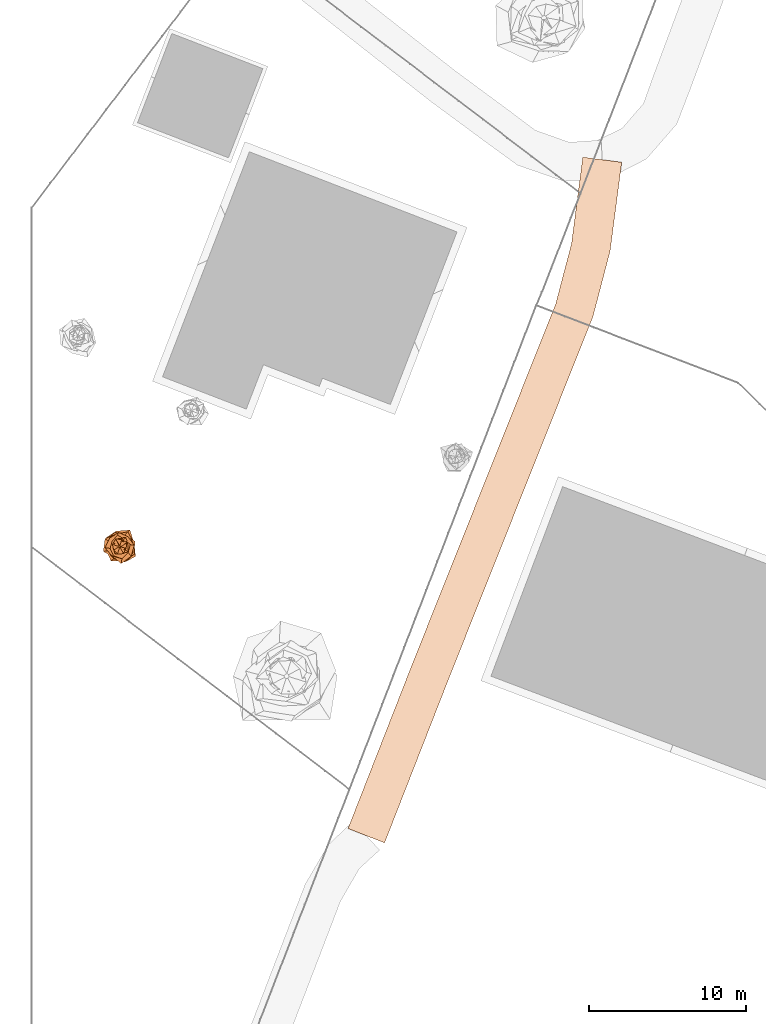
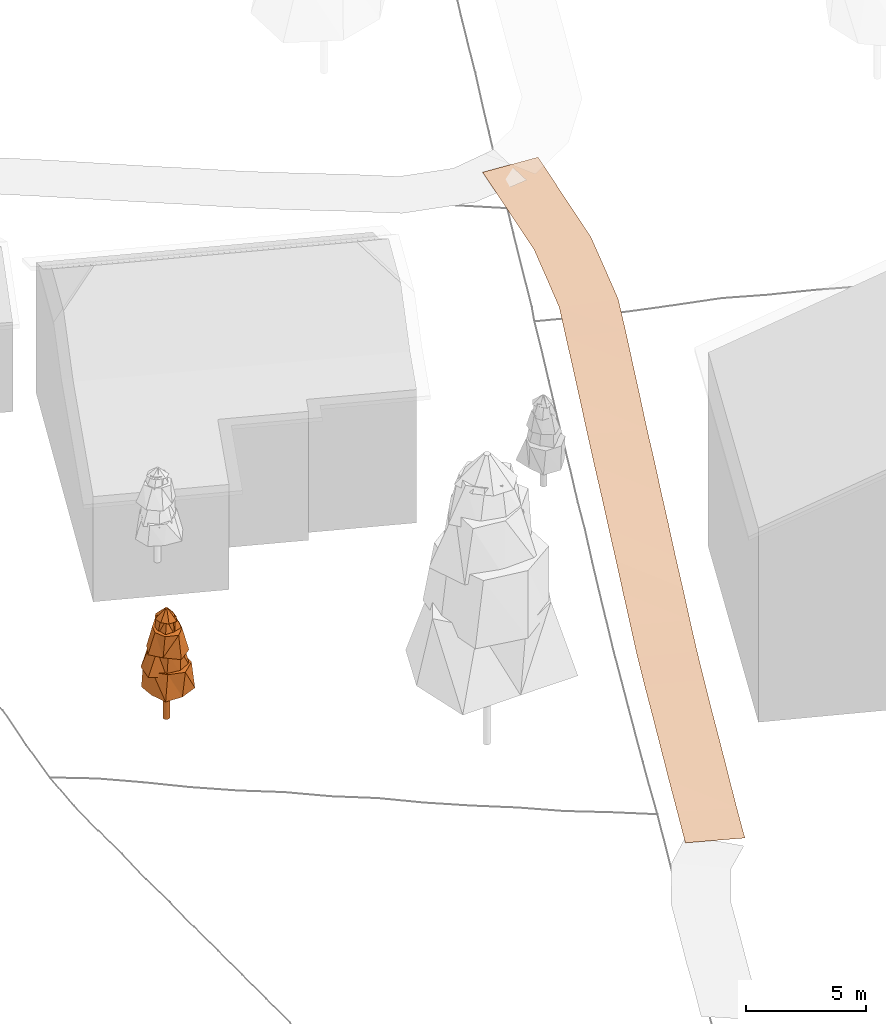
# Not in any storey, part 30 of 88: 2 geographic elements.
"""IFC4 model written with IfcOpenShell, lengths in metres."""

from ifc_helpers import new_model, si_unit, frame, origin_with_axes, place, context, subcontext, project, spatial, circle, extrude, faceted_brep, triangles, element, save


model = new_model("IFC4")

# Units and contexts
model_context = context("Model", 3, precision=1e-05, world=origin_with_axes())
body_context = subcontext(model_context, "Body", "Model", "MODEL_VIEW")
ifc_project = project(units=[si_unit("LENGTHUNIT", "METRE"), si_unit("AREAUNIT", "SQUARE_METRE"), si_unit("VOLUMEUNIT", "CUBIC_METRE"), si_unit("PLANEANGLEUNIT", "RADIAN")], contexts=[model_context])

# Sites
site_1_placement = place(None, origin_with_axes())
site_1 = spatial("IfcSite", under=ifc_project, at=site_1_placement, Name="CH907857693633", CompositionType="ELEMENT")
site_2_placement = place(None, origin_with_axes())
site_2 = spatial("IfcSite", under=site_1, at=site_2_placement, Name="Vegetation", CompositionType="ELEMENT")

# Geographic element
geographic_element_1_placement = place(None, frame((5.59900003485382, 77.7610034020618, 3.28515625), z_axis=(0.0, 0.0, 1.0), x_axis=(1.0, 0.0, 0.0)))
element("IfcGeographicElement", 1, at=geographic_element_1_placement, inside=site_2, Name="Tree_einzelbaum", ObjectType="VEGETATION", PredefinedType="USERDEFINED", context=body_context, shape_type="Brep", body=[
    extrude(circle(Radius=0.15), origin_with_axes(), (0.0, 0.0, 1.0), 1.52858288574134),
    faceted_brep([(1.01096234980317, -0.623304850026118, 1.52858288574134), (0.223940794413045, -0.944078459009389, 1.52858288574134), (-0.557507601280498, -0.904243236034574, 1.52858288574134), (-0.8163949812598, -0.193653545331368, 1.52858288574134), (-0.882471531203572, 0.544084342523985, 1.52858288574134), (-0.233580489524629, 0.984717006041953, 1.52858288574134), (0.649701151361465, 1.05377553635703, 1.52858288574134), (0.919720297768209, 0.218162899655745, 1.52858288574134), (0.966346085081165, 0.334133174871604, 2.76713305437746), (0.370787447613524, 0.76271992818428, 2.76713305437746), (-0.312249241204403, 0.903055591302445, 2.76713305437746), (-0.872754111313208, 0.424279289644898, 2.76713305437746), (-0.836131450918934, -0.289108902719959, 2.76713305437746), (-0.376098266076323, -0.773644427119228, 2.76713305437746), (0.341516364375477, -0.987698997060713, 2.76713305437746), (0.941506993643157, -0.457702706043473, 2.76713305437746), (0.919720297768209, 0.218162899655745, 1.52858288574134), (0.649701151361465, 1.05377553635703, 1.52858288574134), (0.370787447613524, 0.76271992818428, 2.76713305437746), (0.966346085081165, 0.334133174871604, 2.76713305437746), (0.649701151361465, 1.05377553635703, 1.52858288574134), (-0.233580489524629, 0.984717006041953, 1.52858288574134), (-0.312249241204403, 0.903055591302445, 2.76713305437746), (0.370787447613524, 0.76271992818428, 2.76713305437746), (-0.233580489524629, 0.984717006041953, 1.52858288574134), (-0.882471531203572, 0.544084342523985, 1.52858288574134), (-0.872754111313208, 0.424279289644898, 2.76713305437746), (-0.312249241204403, 0.903055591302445, 2.76713305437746), (-0.882471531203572, 0.544084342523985, 1.52858288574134), (-0.8163949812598, -0.193653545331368, 1.52858288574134), (-0.836131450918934, -0.289108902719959, 2.76713305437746), (-0.872754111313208, 0.424279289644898, 2.76713305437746), (-0.8163949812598, -0.193653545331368, 1.52858288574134), (-0.557507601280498, -0.904243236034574, 1.52858288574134), (-0.376098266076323, -0.773644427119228, 2.76713305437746), (-0.836131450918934, -0.289108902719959, 2.76713305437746), (-0.557507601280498, -0.904243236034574, 1.52858288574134), (0.223940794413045, -0.944078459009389, 1.52858288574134), (0.341516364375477, -0.987698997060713, 2.76713305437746), (-0.376098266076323, -0.773644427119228, 2.76713305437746), (0.223940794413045, -0.944078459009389, 1.52858288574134), (1.01096234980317, -0.623304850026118, 1.52858288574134), (0.941506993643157, -0.457702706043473, 2.76713305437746), (0.341516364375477, -0.987698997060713, 2.76713305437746), (1.01096234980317, -0.623304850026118, 1.52858288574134), (0.919720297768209, 0.218162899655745, 1.52858288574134), (0.966346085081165, 0.334133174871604, 2.76713305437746), (0.941506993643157, -0.457702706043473, 2.76713305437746)], [[[0, 1, 2, 3, 4, 5, 6, 7]], [[8, 9, 10, 11, 12, 13, 14, 15]], [[16, 17, 18, 19]], [[20, 21, 22, 23]], [[24, 25, 26, 27]], [[28, 29, 30, 31]], [[32, 33, 34, 35]], [[36, 37, 38, 39]], [[40, 41, 42, 43]], [[44, 45, 46, 47]]]),
    faceted_brep([(0.862939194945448, -0.468227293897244, 2.58135052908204), (0.229091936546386, -0.772612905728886, 2.58135052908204), (-0.3740222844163, -0.689320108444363, 2.58135052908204), (-1.04491836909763, -0.309834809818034, 2.58135052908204), (-0.933086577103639, 0.506288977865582, 2.58135052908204), (-0.233745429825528, 0.788306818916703, 2.58135052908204), (0.510584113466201, 0.941002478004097, 2.58135052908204), (0.894951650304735, 0.265367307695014, 2.58135052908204), (0.534098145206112, 0.218456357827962, 3.72689767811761), (0.279680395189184, 0.666815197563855, 3.72689767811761), (-0.305878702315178, 0.74783471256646, 3.72689767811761), (-0.629461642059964, 0.264013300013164, 3.72689767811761), (-0.582479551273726, -0.238245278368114, 3.72689767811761), (-0.266624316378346, -0.635686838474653, 3.72689767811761), (0.27721129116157, -0.677746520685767, 3.72689767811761), (0.655277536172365, -0.274841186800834, 3.72689767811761), (0.894951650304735, 0.265367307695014, 2.58135052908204), (0.510584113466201, 0.941002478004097, 2.58135052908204), (0.279680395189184, 0.666815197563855, 3.72689767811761), (0.534098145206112, 0.218456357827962, 3.72689767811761), (0.510584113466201, 0.941002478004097, 2.58135052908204), (-0.233745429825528, 0.788306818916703, 2.58135052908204), (-0.305878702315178, 0.74783471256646, 3.72689767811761), (0.279680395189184, 0.666815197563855, 3.72689767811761), (-0.233745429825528, 0.788306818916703, 2.58135052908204), (-0.933086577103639, 0.506288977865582, 2.58135052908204), (-0.629461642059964, 0.264013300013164, 3.72689767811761), (-0.305878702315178, 0.74783471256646, 3.72689767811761), (-0.933086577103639, 0.506288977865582, 2.58135052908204), (-1.04491836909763, -0.309834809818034, 2.58135052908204), (-0.582479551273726, -0.238245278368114, 3.72689767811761), (-0.629461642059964, 0.264013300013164, 3.72689767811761), (-1.04491836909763, -0.309834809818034, 2.58135052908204), (-0.3740222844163, -0.689320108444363, 2.58135052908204), (-0.266624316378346, -0.635686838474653, 3.72689767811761), (-0.582479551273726, -0.238245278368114, 3.72689767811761), (-0.3740222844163, -0.689320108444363, 2.58135052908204), (0.229091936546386, -0.772612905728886, 2.58135052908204), (0.27721129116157, -0.677746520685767, 3.72689767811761), (-0.266624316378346, -0.635686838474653, 3.72689767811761), (0.229091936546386, -0.772612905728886, 2.58135052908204), (0.862939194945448, -0.468227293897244, 2.58135052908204), (0.655277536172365, -0.274841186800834, 3.72689767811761), (0.27721129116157, -0.677746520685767, 3.72689767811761), (0.862939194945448, -0.468227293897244, 2.58135052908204), (0.894951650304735, 0.265367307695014, 2.58135052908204), (0.534098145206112, 0.218456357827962, 3.72689767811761), (0.655277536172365, -0.274841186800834, 3.72689767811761)], [[[0, 1, 2, 3, 4, 5, 6, 7]], [[8, 9, 10, 11, 12, 13, 14, 15]], [[16, 17, 18, 19]], [[20, 21, 22, 23]], [[24, 25, 26, 27]], [[28, 29, 30, 31]], [[32, 33, 34, 35]], [[36, 37, 38, 39]], [[40, 41, 42, 43]], [[44, 45, 46, 47]]]),
    faceted_brep([(0.7312066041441, -0.616451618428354, 3.55506560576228), (0.0923648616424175, -1.08471335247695, 3.55506560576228), (-0.497927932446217, -0.590619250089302, 3.55506560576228), (-0.933952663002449, -0.0795273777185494, 3.55506560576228), (-0.639635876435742, 0.539251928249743, 3.55506560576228), (-0.0765016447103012, 0.898419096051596, 3.55506560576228), (0.530117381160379, 0.628800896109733, 3.55506560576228), (0.927495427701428, 0.0789775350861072, 3.55506560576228), (0.670630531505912, 0.125464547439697, 4.58490932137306), (0.312211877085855, 0.455916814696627, 4.58490932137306), (-0.137487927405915, 0.73489765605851, 4.58490932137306), (-0.483527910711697, 0.331119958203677, 4.58490932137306), (-0.610481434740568, -0.114211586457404, 4.58490932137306), (-0.398759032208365, -0.582299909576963, 4.58490932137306), (0.144973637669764, -0.774910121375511, 4.58490932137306), (0.539194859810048, -0.369240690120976, 4.58490932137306), (0.927495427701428, 0.0789775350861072, 3.55506560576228), (0.530117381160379, 0.628800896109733, 3.55506560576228), (0.312211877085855, 0.455916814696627, 4.58490932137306), (0.670630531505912, 0.125464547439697, 4.58490932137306), (0.530117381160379, 0.628800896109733, 3.55506560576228), (-0.0765016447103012, 0.898419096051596, 3.55506560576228), (-0.137487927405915, 0.73489765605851, 4.58490932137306), (0.312211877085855, 0.455916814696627, 4.58490932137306), (-0.0765016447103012, 0.898419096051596, 3.55506560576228), (-0.639635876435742, 0.539251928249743, 3.55506560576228), (-0.483527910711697, 0.331119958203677, 4.58490932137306), (-0.137487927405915, 0.73489765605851, 4.58490932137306), (-0.639635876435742, 0.539251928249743, 3.55506560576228), (-0.933952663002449, -0.0795273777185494, 3.55506560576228), (-0.610481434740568, -0.114211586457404, 4.58490932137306), (-0.483527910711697, 0.331119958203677, 4.58490932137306), (-0.933952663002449, -0.0795273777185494, 3.55506560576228), (-0.497927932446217, -0.590619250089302, 3.55506560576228), (-0.398759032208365, -0.582299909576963, 4.58490932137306), (-0.610481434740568, -0.114211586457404, 4.58490932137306), (-0.497927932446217, -0.590619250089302, 3.55506560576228), (0.0923648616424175, -1.08471335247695, 3.55506560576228), (0.144973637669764, -0.774910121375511, 4.58490932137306), (-0.398759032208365, -0.582299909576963, 4.58490932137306), (0.0923648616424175, -1.08471335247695, 3.55506560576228), (0.7312066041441, -0.616451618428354, 3.55506560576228), (0.539194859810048, -0.369240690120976, 4.58490932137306), (0.144973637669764, -0.774910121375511, 4.58490932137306), (0.7312066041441, -0.616451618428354, 3.55506560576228), (0.927495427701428, 0.0789775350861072, 3.55506560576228), (0.670630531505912, 0.125464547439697, 4.58490932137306), (0.539194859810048, -0.369240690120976, 4.58490932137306)], [[[0, 1, 2, 3, 4, 5, 6, 7]], [[8, 9, 10, 11, 12, 13, 14, 15]], [[16, 17, 18, 19]], [[20, 21, 22, 23]], [[24, 25, 26, 27]], [[28, 29, 30, 31]], [[32, 33, 34, 35]], [[36, 37, 38, 39]], [[40, 41, 42, 43]], [[44, 45, 46, 47]]]),
    faceted_brep([(0.568882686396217, -0.384154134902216, 4.43043276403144), (0.100762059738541, -0.519843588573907, 4.43043276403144), (-0.35027743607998, -0.518715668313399, 4.43043276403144), (-0.462617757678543, -0.0896698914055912, 4.43043276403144), (-0.414509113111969, 0.279909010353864, 4.43043276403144), (-0.106843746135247, 0.551219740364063, 4.43043276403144), (0.3840618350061, 0.568746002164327, 4.43043276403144), (0.583202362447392, 0.113042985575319, 4.43043276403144), (0.293159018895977, 0.087947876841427, 5.17648751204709), (0.20956307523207, 0.38918906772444, 5.17648751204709), (-0.0946599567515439, 0.315532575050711, 5.17648751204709), (-0.360625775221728, 0.194182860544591, 5.17648751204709), (-0.314432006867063, -0.0943297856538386, 5.17648751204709), (-0.144139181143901, -0.267687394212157, 5.17648751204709), (0.110001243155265, -0.36667009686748, 5.17648751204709), (0.335518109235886, -0.180663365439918, 5.17648751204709), (0.583202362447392, 0.113042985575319, 4.43043276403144), (0.3840618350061, 0.568746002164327, 4.43043276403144), (0.20956307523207, 0.38918906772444, 5.17648751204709), (0.293159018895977, 0.087947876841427, 5.17648751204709), (0.3840618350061, 0.568746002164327, 4.43043276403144), (-0.106843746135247, 0.551219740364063, 4.43043276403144), (-0.0946599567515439, 0.315532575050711, 5.17648751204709), (0.20956307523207, 0.38918906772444, 5.17648751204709), (-0.106843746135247, 0.551219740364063, 4.43043276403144), (-0.414509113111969, 0.279909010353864, 4.43043276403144), (-0.360625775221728, 0.194182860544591, 5.17648751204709), (-0.0946599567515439, 0.315532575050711, 5.17648751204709), (-0.414509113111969, 0.279909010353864, 4.43043276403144), (-0.462617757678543, -0.0896698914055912, 4.43043276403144), (-0.314432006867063, -0.0943297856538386, 5.17648751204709), (-0.360625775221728, 0.194182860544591, 5.17648751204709), (-0.462617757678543, -0.0896698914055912, 4.43043276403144), (-0.35027743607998, -0.518715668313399, 4.43043276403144), (-0.144139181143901, -0.267687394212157, 5.17648751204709), (-0.314432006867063, -0.0943297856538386, 5.17648751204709), (-0.35027743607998, -0.518715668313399, 4.43043276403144), (0.100762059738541, -0.519843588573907, 4.43043276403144), (0.110001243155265, -0.36667009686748, 5.17648751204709), (-0.144139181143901, -0.267687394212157, 5.17648751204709), (0.100762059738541, -0.519843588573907, 4.43043276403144), (0.568882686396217, -0.384154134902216, 4.43043276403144), (0.335518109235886, -0.180663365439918, 5.17648751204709), (0.110001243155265, -0.36667009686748, 5.17648751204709), (0.568882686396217, -0.384154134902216, 4.43043276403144), (0.583202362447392, 0.113042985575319, 4.43043276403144), (0.293159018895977, 0.087947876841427, 5.17648751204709), (0.335518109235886, -0.180663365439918, 5.17648751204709)], [[[0, 1, 2, 3, 4, 5, 6, 7]], [[8, 9, 10, 11, 12, 13, 14, 15]], [[16, 17, 18, 19]], [[20, 21, 22, 23]], [[24, 25, 26, 27]], [[28, 29, 30, 31]], [[32, 33, 34, 35]], [[36, 37, 38, 39]], [[40, 41, 42, 43]], [[44, 45, 46, 47]]]),
    faceted_brep([(0.406748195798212, -0.120804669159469, 5.06457929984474), (0.245135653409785, -0.452264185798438, 5.06457929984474), (-0.138935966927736, -0.467796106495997, 5.06457929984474), (-0.385737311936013, -0.209076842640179, 5.06457929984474), (-0.466917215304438, 0.138674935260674, 5.06457929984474), (-0.256118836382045, 0.472527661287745, 5.06457929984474), (0.13645122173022, 0.45942999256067, 5.06457929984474), (0.447396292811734, 0.242497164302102, 5.06457929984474), (0.0455426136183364, 0.0309369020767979, 5.54881767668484), (0.0125372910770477, 0.0656486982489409, 5.54881767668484), (-0.0312666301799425, 0.0460280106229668, 5.54881767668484), (-0.0506806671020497, 0.00967876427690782, 5.54881767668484), (-0.0532533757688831, -0.0361747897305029, 5.54881767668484), (-0.0120300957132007, -0.0629928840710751, 5.54881767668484), (0.0363508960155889, -0.0535126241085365, 5.54881767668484), (0.0667118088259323, -0.01274031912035, 5.54881767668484), (0.447396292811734, 0.242497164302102, 5.06457929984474), (0.13645122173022, 0.45942999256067, 5.06457929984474), (0.0125372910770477, 0.0656486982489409, 5.54881767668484), (0.0455426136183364, 0.0309369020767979, 5.54881767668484), (0.13645122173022, 0.45942999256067, 5.06457929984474), (-0.256118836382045, 0.472527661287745, 5.06457929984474), (-0.0312666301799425, 0.0460280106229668, 5.54881767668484), (0.0125372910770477, 0.0656486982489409, 5.54881767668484), (-0.256118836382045, 0.472527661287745, 5.06457929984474), (-0.466917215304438, 0.138674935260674, 5.06457929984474), (-0.0506806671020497, 0.00967876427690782, 5.54881767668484), (-0.0312666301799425, 0.0460280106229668, 5.54881767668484), (-0.466917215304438, 0.138674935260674, 5.06457929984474), (-0.385737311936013, -0.209076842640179, 5.06457929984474), (-0.0532533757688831, -0.0361747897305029, 5.54881767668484), (-0.0506806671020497, 0.00967876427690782, 5.54881767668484), (-0.385737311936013, -0.209076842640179, 5.06457929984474), (-0.138935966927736, -0.467796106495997, 5.06457929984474), (-0.0120300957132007, -0.0629928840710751, 5.54881767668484), (-0.0532533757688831, -0.0361747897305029, 5.54881767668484), (-0.138935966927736, -0.467796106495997, 5.06457929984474), (0.245135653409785, -0.452264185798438, 5.06457929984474), (0.0363508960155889, -0.0535126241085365, 5.54881767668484), (-0.0120300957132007, -0.0629928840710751, 5.54881767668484), (0.245135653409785, -0.452264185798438, 5.06457929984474), (0.406748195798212, -0.120804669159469, 5.06457929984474), (0.0667118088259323, -0.01274031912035, 5.54881767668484), (0.0363508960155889, -0.0535126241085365, 5.54881767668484), (0.406748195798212, -0.120804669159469, 5.06457929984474), (0.447396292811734, 0.242497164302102, 5.06457929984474), (0.0455426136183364, 0.0309369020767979, 5.54881767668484), (0.0667118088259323, -0.01274031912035, 5.54881767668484)], [[[0, 1, 2, 3, 4, 5, 6, 7]], [[8, 9, 10, 11, 12, 13, 14, 15]], [[16, 17, 18, 19]], [[20, 21, 22, 23]], [[24, 25, 26, 27]], [[28, 29, 30, 31]], [[32, 33, 34, 35]], [[36, 37, 38, 39]], [[40, 41, 42, 43]], [[44, 45, 46, 47]]]),
])

# Site
site_3_placement = place(None, origin_with_axes())
site_3 = spatial("IfcSite", under=site_1, at=site_3_placement, Name="Roads", CompositionType="ELEMENT")

# Geographic element
geographic_element_2_placement = place(None, origin_with_axes())
element("IfcGeographicElement", 2, at=geographic_element_2_placement, inside=site_3, Name="Road_weg", ObjectType="ROAD", PredefinedType="USERDEFINED", context=body_context, shape_type="Tessellation", body=[
    triangles([(20.1287548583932, 59.8160123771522, 2.7219360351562), (20.9477548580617, 61.9116123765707, 2.75483398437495), (21.7667548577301, 64.0072123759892, 2.76850585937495), (22.5857548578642, 66.1028123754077, 2.83308105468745), (23.4047548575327, 68.1984123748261, 2.88874511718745), (24.2251680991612, 70.2976120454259, 2.9130981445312), (24.9886417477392, 72.2144570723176, 2.9334838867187), (25.7505584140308, 74.12737373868, 3.11982421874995), (26.5124750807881, 76.0402904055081, 3.31391601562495), (27.2743917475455, 77.9532070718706, 3.5300415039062), (28.0363084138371, 79.8661237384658, 3.69624023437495), (28.7982250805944, 81.7790404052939, 3.90449218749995), (29.5601417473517, 83.6919570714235, 4.0481079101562), (30.3220584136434, 85.6048737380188, 4.24104003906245), (31.0839750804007, 87.5177904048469, 4.46528320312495), (31.845891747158, 89.4307070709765, 4.67536621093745), (32.6078084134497, 91.3436237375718, 4.8465698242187), (33.343527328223, 93.1843988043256, 5.02204589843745), (33.8463871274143, 95.1110932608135, 5.16669921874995), (34.3509723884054, 97.0220188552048, 5.2657592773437), (34.7055279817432, 99.7503954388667, 5.43830566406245), (35.0705279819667, 102.544895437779, 5.5804565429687), (22.4572452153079, 58.9059944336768, 2.70466308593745), (23.2762452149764, 61.0015944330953, 2.6815307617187), (24.0952452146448, 63.0971944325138, 2.7452514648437), (24.9142452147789, 65.1927944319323, 2.82197265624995), (25.7332452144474, 67.2883944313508, 2.8424194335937), (26.5508319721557, 69.3803947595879, 2.93415527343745), (27.3111916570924, 71.2893830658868, 2.96943359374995), (28.0731083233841, 73.2022997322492, 3.12714843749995), (28.8350249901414, 75.1152163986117, 3.33137207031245), (29.5969416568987, 77.0281330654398, 3.4779174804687), (30.3588583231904, 78.941049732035, 3.7089965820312), (31.1207749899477, 80.8539663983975, 3.8746459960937), (31.882691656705, 82.7668830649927, 4.1081665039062), (32.6446083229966, 84.679799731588, 4.2415893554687), (33.406524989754, 86.5927163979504, 4.49860839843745), (34.1684416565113, 88.5056330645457, 4.7148559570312), (34.9303583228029, 90.418549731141, 4.9498413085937), (35.7184727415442, 92.4036079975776, 5.08784179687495), (36.2646129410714, 94.4769135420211, 5.21162109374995), (36.8090276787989, 96.5659879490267, 5.3269165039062), (37.1844720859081, 99.4266113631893, 5.49165039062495), (37.5494720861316, 102.221111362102, 5.6764038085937)], [[1, 23, 2], [23, 24, 2], [2, 24, 3], [24, 25, 3], [3, 25, 4], [25, 26, 4], [4, 26, 5], [26, 27, 5], [5, 27, 6], [27, 28, 6], [6, 28, 7], [28, 29, 7], [7, 29, 8], [29, 30, 8], [8, 30, 9], [30, 31, 9], [9, 31, 10], [31, 32, 10], [10, 32, 11], [32, 33, 11], [11, 33, 12], [33, 34, 12], [12, 34, 13], [34, 35, 13], [13, 35, 14], [35, 36, 14], [14, 36, 15], [36, 37, 15], [15, 37, 16], [37, 38, 16], [16, 38, 17], [38, 39, 17], [17, 39, 18], [39, 40, 18], [18, 40, 19], [40, 41, 19], [19, 41, 20], [41, 42, 20], [20, 42, 21], [42, 43, 21], [21, 43, 22], [43, 44, 22]]),
])

save(model, "model.ifc")
